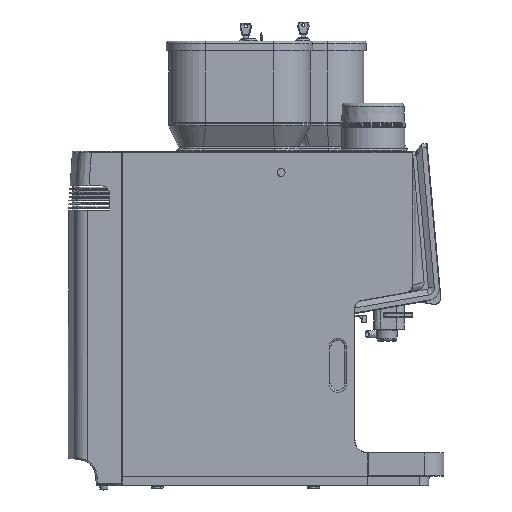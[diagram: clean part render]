
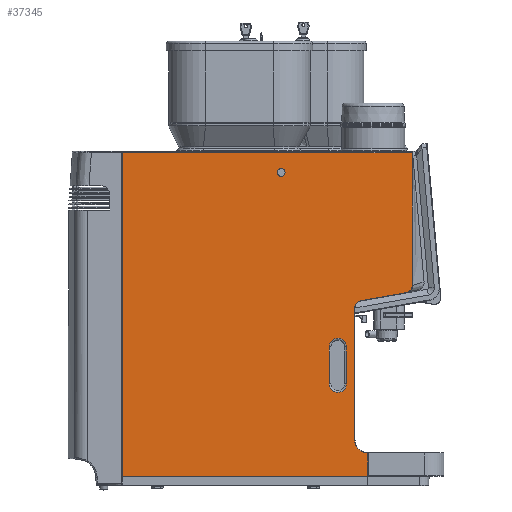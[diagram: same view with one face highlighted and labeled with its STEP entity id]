
A CAD part, left-side view. The second image highlights one B-rep face of the part: STEP entity #37345.
In plain terms, the highlighted planar face has unit normal (-1, 0, 0).
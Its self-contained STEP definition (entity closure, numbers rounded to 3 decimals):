
#223=FACE_BOUND('',#10800,.T.);
#224=FACE_BOUND('',#10801,.T.);
#433=PLANE('',#39711);
#2196=LINE('',#55343,#5040);
#2211=LINE('',#55429,#5055);
#2264=LINE('',#55830,#5108);
#2266=LINE('',#55842,#5110);
#2270=LINE('',#56014,#5114);
#2275=LINE('',#56023,#5119);
#2276=LINE('',#56026,#5120);
#2277=LINE('',#56030,#5121);
#5040=VECTOR('',#43898,10.);
#5055=VECTOR('',#43961,10.);
#5108=VECTOR('',#44134,10.);
#5110=VECTOR('',#44148,10.);
#5114=VECTOR('',#44162,10.);
#5119=VECTOR('',#44169,10.);
#5120=VECTOR('',#44170,10.);
#5121=VECTOR('',#44173,10.);
#8564=FACE_OUTER_BOUND('',#10799,.T.);
#10799=EDGE_LOOP('',(#25773,#25774,#25775,#25776,#25777,#25778,#25779,#25780,
#25781,#25782));
#10800=EDGE_LOOP('',(#25783,#25784,#25785,#25786));
#10801=EDGE_LOOP('',(#25787));
#13164=B_SPLINE_CURVE_WITH_KNOTS('',3,(#55877,#55878,#55879,#55880,#55881,
#55882),.UNSPECIFIED.,.F.,.F.,(4,1,1,4),(-1.585,-1.132,
-0.679,0.),.UNSPECIFIED.);
#13166=B_SPLINE_CURVE_WITH_KNOTS('',3,(#55917,#55918,#55919,#55920,#55921),
 .UNSPECIFIED.,.F.,.F.,(4,1,4),(-20.858,-8.939,0.),
 .UNSPECIFIED.);
#13965=CIRCLE('',#39697,20.5);
#13968=CIRCLE('',#39702,10.6);
#13974=CIRCLE('',#39712,13.5);
#13975=CIRCLE('',#39713,13.5);
#13976=CIRCLE('',#39714,6.);
#15813=VERTEX_POINT('',#55340);
#15814=VERTEX_POINT('',#55342);
#15841=VERTEX_POINT('',#55427);
#15907=VERTEX_POINT('',#55818);
#15910=VERTEX_POINT('',#55823);
#15912=VERTEX_POINT('',#55828);
#15914=VERTEX_POINT('',#55834);
#15916=VERTEX_POINT('',#55840);
#15918=VERTEX_POINT('',#55875);
#15920=VERTEX_POINT('',#55915);
#15930=VERTEX_POINT('',#56024);
#15931=VERTEX_POINT('',#56025);
#15932=VERTEX_POINT('',#56027);
#15933=VERTEX_POINT('',#56029);
#15934=VERTEX_POINT('',#56032);
#19551=EDGE_CURVE('',#15814,#15813,#2196,.T.);
#19585=EDGE_CURVE('',#15813,#15841,#2211,.T.);
#19683=EDGE_CURVE('',#15910,#15907,#13965,.T.);
#19685=EDGE_CURVE('',#15912,#15910,#2264,.T.);
#19688=EDGE_CURVE('',#15914,#15912,#13968,.T.);
#19691=EDGE_CURVE('',#15916,#15914,#2266,.T.);
#19694=EDGE_CURVE('',#15918,#15916,#13164,.T.);
#19697=EDGE_CURVE('',#15920,#15918,#13166,.T.);
#19708=EDGE_CURVE('',#15841,#15907,#2270,.T.);
#19713=EDGE_CURVE('',#15814,#15920,#2275,.T.);
#19714=EDGE_CURVE('',#15930,#15931,#2276,.T.);
#19715=EDGE_CURVE('',#15932,#15930,#13974,.T.);
#19716=EDGE_CURVE('',#15933,#15932,#2277,.T.);
#19717=EDGE_CURVE('',#15931,#15933,#13975,.T.);
#19718=EDGE_CURVE('',#15934,#15934,#13976,.T.);
#25773=ORIENTED_EDGE('',*,*,#19683,.F.);
#25774=ORIENTED_EDGE('',*,*,#19685,.F.);
#25775=ORIENTED_EDGE('',*,*,#19688,.F.);
#25776=ORIENTED_EDGE('',*,*,#19691,.F.);
#25777=ORIENTED_EDGE('',*,*,#19694,.F.);
#25778=ORIENTED_EDGE('',*,*,#19697,.F.);
#25779=ORIENTED_EDGE('',*,*,#19713,.F.);
#25780=ORIENTED_EDGE('',*,*,#19551,.T.);
#25781=ORIENTED_EDGE('',*,*,#19585,.T.);
#25782=ORIENTED_EDGE('',*,*,#19708,.T.);
#25783=ORIENTED_EDGE('',*,*,#19714,.F.);
#25784=ORIENTED_EDGE('',*,*,#19715,.F.);
#25785=ORIENTED_EDGE('',*,*,#19716,.F.);
#25786=ORIENTED_EDGE('',*,*,#19717,.F.);
#25787=ORIENTED_EDGE('',*,*,#19718,.T.);
#37345=ADVANCED_FACE('',(#8564,#223,#224),#433,.F.);
#39697=AXIS2_PLACEMENT_3D('',#55825,#44128,#44129);
#39702=AXIS2_PLACEMENT_3D('',#55836,#44140,#44141);
#39711=AXIS2_PLACEMENT_3D('',#56022,#44167,#44168);
#39712=AXIS2_PLACEMENT_3D('',#56028,#44171,#44172);
#39713=AXIS2_PLACEMENT_3D('',#56031,#44174,#44175);
#39714=AXIS2_PLACEMENT_3D('',#56033,#44176,#44177);
#43898=DIRECTION('',(0.,0.,-1.));
#43961=DIRECTION('',(0.,-1.,0.));
#44128=DIRECTION('center_axis',(-1.,0.,0.));
#44129=DIRECTION('ref_axis',(0.,0.707,-0.707));
#44134=DIRECTION('',(0.,0.,-1.));
#44140=DIRECTION('center_axis',(-1.,0.,0.));
#44141=DIRECTION('ref_axis',(0.,0.766,0.643));
#44148=DIRECTION('',(0.,0.985,-0.174));
#44162=DIRECTION('',(0.,0.,1.));
#44167=DIRECTION('center_axis',(1.,0.,0.));
#44168=DIRECTION('ref_axis',(0.,0.,-1.));
#44169=DIRECTION('',(0.,-1.,0.));
#44170=DIRECTION('',(0.,0.,-1.));
#44171=DIRECTION('center_axis',(-1.,0.,0.));
#44172=DIRECTION('ref_axis',(0.,0.,1.));
#44173=DIRECTION('',(0.,0.,1.));
#44174=DIRECTION('center_axis',(-1.,0.,0.));
#44175=DIRECTION('ref_axis',(0.,0.,-1.));
#44176=DIRECTION('center_axis',(1.,0.,0.));
#44177=DIRECTION('ref_axis',(0.,0.,-1.));
#55340=CARTESIAN_POINT('',(-162.5,505.,19.5));
#55342=CARTESIAN_POINT('',(-162.5,505.,527.5));
#55343=CARTESIAN_POINT('',(-162.5,505.,529.5));
#55427=CARTESIAN_POINT('',(-162.5,119.6,19.5));
#55429=CARTESIAN_POINT('',(-162.5,203.082,19.5));
#55818=CARTESIAN_POINT('',(-162.5,119.6,56.));
#55823=CARTESIAN_POINT('',(-162.5,140.1,76.5));
#55825=CARTESIAN_POINT('Origin',(-162.5,119.6,76.5));
#55828=CARTESIAN_POINT('',(-162.5,140.1,284.499));
#55830=CARTESIAN_POINT('',(-162.5,140.1,267.08));
#55834=CARTESIAN_POINT('',(-162.5,131.341,294.938));
#55836=CARTESIAN_POINT('Origin',(-162.5,129.5,284.499));
#55840=CARTESIAN_POINT('',(-162.5,58.942,307.704));
#55842=CARTESIAN_POINT('',(-162.5,165.239,288.961));
#55875=CARTESIAN_POINT('',(-162.5,49.607,318.922));
#55877=CARTESIAN_POINT('Ctrl Pts',(-162.5,49.607,318.922));
#55878=CARTESIAN_POINT('Ctrl Pts',(-162.5,49.606,317.412));
#55879=CARTESIAN_POINT('Ctrl Pts',(-162.5,50.207,314.396));
#55880=CARTESIAN_POINT('Ctrl Pts',(-162.5,53.212,309.918));
#55881=CARTESIAN_POINT('Ctrl Pts',(-162.5,56.712,308.097));
#55882=CARTESIAN_POINT('Ctrl Pts',(-162.5,58.942,307.704));
#55915=CARTESIAN_POINT('',(-162.5,49.847,527.5));
#55917=CARTESIAN_POINT('Ctrl Pts',(-162.5,49.847,527.5));
#55918=CARTESIAN_POINT('Ctrl Pts',(-162.5,49.78,487.771));
#55919=CARTESIAN_POINT('Ctrl Pts',(-162.5,49.684,418.245));
#55920=CARTESIAN_POINT('Ctrl Pts',(-162.5,49.634,348.719));
#55921=CARTESIAN_POINT('Ctrl Pts',(-162.5,49.607,318.922));
#56014=CARTESIAN_POINT('',(-162.5,119.6,157.982));
#56022=CARTESIAN_POINT('Origin',(-162.5,286.564,259.464));
#56023=CARTESIAN_POINT('',(-162.5,438.282,527.5));
#56024=CARTESIAN_POINT('',(-162.5,180.1,222.45));
#56025=CARTESIAN_POINT('',(-162.5,180.1,164.45));
#56026=CARTESIAN_POINT('',(-162.5,180.1,211.957));
#56027=CARTESIAN_POINT('',(-162.5,153.1,222.45));
#56028=CARTESIAN_POINT('Origin',(-162.5,166.6,222.45));
#56029=CARTESIAN_POINT('',(-162.5,153.1,164.45));
#56030=CARTESIAN_POINT('',(-162.5,153.1,240.957));
#56031=CARTESIAN_POINT('Origin',(-162.5,166.6,164.45));
#56032=CARTESIAN_POINT('',(-162.5,255.45,502.45));
#56033=CARTESIAN_POINT('Origin',(-162.5,255.45,496.45));
